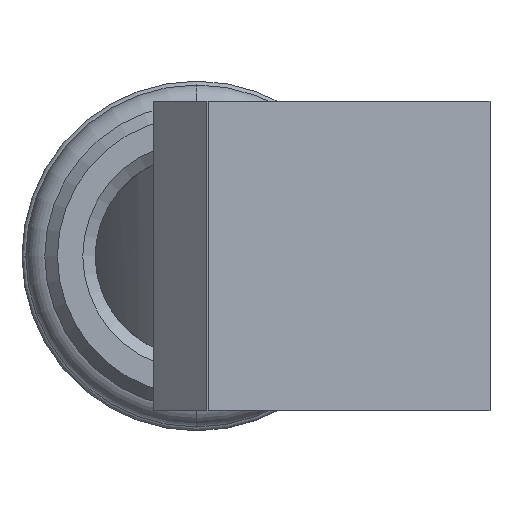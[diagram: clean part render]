
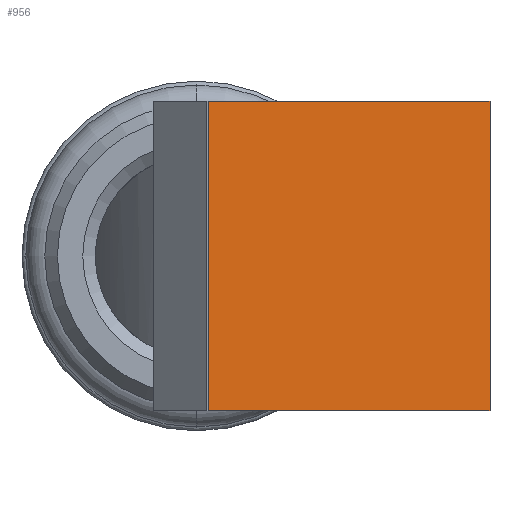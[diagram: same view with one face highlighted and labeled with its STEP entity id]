
A CAD part, left-side view. The second image highlights one B-rep face of the part: STEP entity #956.
In plain terms, the highlighted planar face has unit normal (-0.998, -0.069, 0).
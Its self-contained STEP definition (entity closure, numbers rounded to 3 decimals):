
#8 = CARTESIAN_POINT ( 'NONE',  ( -173.695, -12.066, -6.1 ) ) ;
#231 = VERTEX_POINT ( 'NONE', #1518 ) ;
#274 = VERTEX_POINT ( 'NONE', #1260 ) ;
#432 = CARTESIAN_POINT ( 'NONE',  ( -173.729, -11.573, -15. ) ) ;
#511 = FACE_OUTER_BOUND ( 'NONE', #1641, .T. ) ;
#536 = DIRECTION ( 'NONE',  ( 0.069, -0.998, 0. ) ) ;
#604 = DIRECTION ( 'NONE',  ( 0., 0., 1. ) ) ;
#722 = EDGE_CURVE ( 'NONE', #3270, #231, #2848, .T. ) ;
#757 = ORIENTED_EDGE ( 'NONE', *, *, #1184, .T. ) ;
#774 = VECTOR ( 'NONE', #536, 1000. ) ;
#782 = LINE ( 'NONE', #3266, #3225 ) ;
#928 = VECTOR ( 'NONE', #2748, 1000. ) ;
#956 = ADVANCED_FACE ( 'NONE', ( #511 ), #2677, .F. ) ;
#1184 = EDGE_CURVE ( 'NONE', #274, #3270, #2724, .T. ) ;
#1260 = CARTESIAN_POINT ( 'NONE',  ( -174.5, -0.473, -6.1 ) ) ;
#1308 = ORIENTED_EDGE ( 'NONE', *, *, #1890, .F. ) ;
#1481 = AXIS2_PLACEMENT_3D ( 'NONE', #2954, #3558, #1829 ) ;
#1518 = CARTESIAN_POINT ( 'NONE',  ( -173.729, -11.573, 6.1 ) ) ;
#1519 = VERTEX_POINT ( 'NONE', #3238 ) ;
#1641 = EDGE_LOOP ( 'NONE', ( #1308, #757, #3298, #2176 ) ) ;
#1829 = DIRECTION ( 'NONE',  ( -0.069, 0.998, 0. ) ) ;
#1890 = EDGE_CURVE ( 'NONE', #274, #1519, #782, .T. ) ;
#2001 = VECTOR ( 'NONE', #2150, 1000. ) ;
#2150 = DIRECTION ( 'NONE',  ( 0., 0., 1. ) ) ;
#2176 = ORIENTED_EDGE ( 'NONE', *, *, #3254, .F. ) ;
#2439 = LINE ( 'NONE', #3350, #928 ) ;
#2677 = PLANE ( 'NONE',  #1481 ) ;
#2724 = LINE ( 'NONE', #8, #774 ) ;
#2748 = DIRECTION ( 'NONE',  ( 0.069, -0.998, 0. ) ) ;
#2848 = LINE ( 'NONE', #432, #2001 ) ;
#2954 = CARTESIAN_POINT ( 'NONE',  ( -173.695, -12.066, -15. ) ) ;
#3013 = CARTESIAN_POINT ( 'NONE',  ( -173.729, -11.573, -6.1 ) ) ;
#3225 = VECTOR ( 'NONE', #604, 1000. ) ;
#3238 = CARTESIAN_POINT ( 'NONE',  ( -174.5, -0.473, 6.1 ) ) ;
#3254 = EDGE_CURVE ( 'NONE', #1519, #231, #2439, .T. ) ;
#3266 = CARTESIAN_POINT ( 'NONE',  ( -174.5, -0.473, -15. ) ) ;
#3270 = VERTEX_POINT ( 'NONE', #3013 ) ;
#3298 = ORIENTED_EDGE ( 'NONE', *, *, #722, .T. ) ;
#3350 = CARTESIAN_POINT ( 'NONE',  ( -173.695, -12.066, 6.1 ) ) ;
#3558 = DIRECTION ( 'NONE',  ( 0.998, 0.069, 0. ) ) ;
